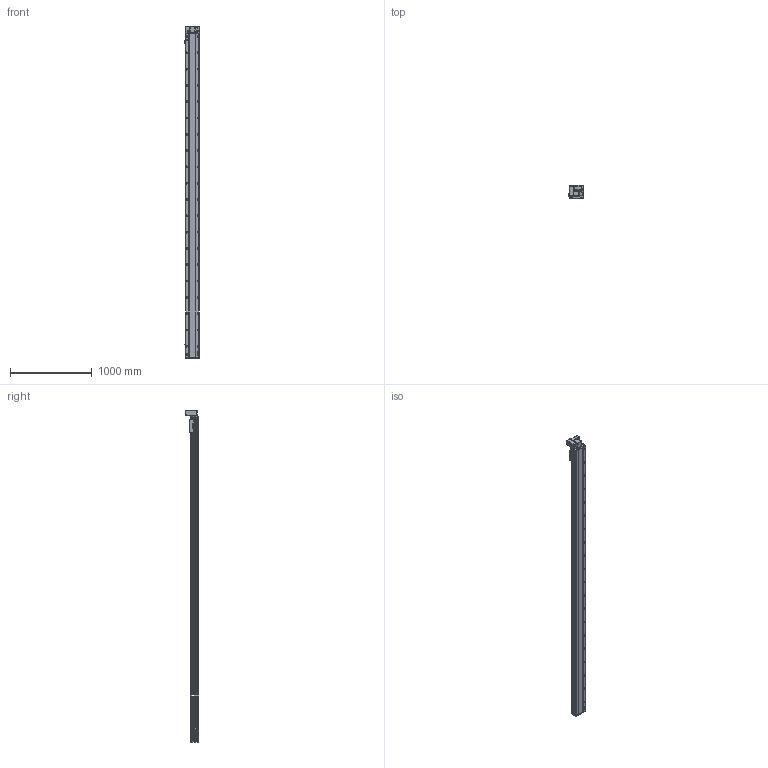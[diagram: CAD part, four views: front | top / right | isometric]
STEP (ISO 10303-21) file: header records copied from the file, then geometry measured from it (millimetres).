
FILE_DESCRIPTION (( 'STEP AP214' ), '1' );
FILE_NAME ('RTB17S-XX-3700-LW-M40-C4.STEP', '2025-12-11T07:25:50', ( '' ), ( '' ), 'SwSTEP 2.0', 'SolidWorks 2018', '' );
FILE_SCHEMA (( 'AUTOMOTIVE_DESIGN' ));
Length unit declared in the file: millimetre
Products named in the file (14): RTB17S-XX-3700-LW-M40-C4; RTB17S-LW-々湍釱蚾饜-400W^RTB17S-XX-XX-LW-M40-C4; RTB17-R-011菁釱^RTB17S-XX-XX-LW-M40-C4; RTB14-L-017P^RTB17S-LW-々湍釱蚾饜-400W_RTB17S-XX-XX-LW-M40-C4; RTB17S-L-014-T20--々湍釱^RTB17S-LW-々湍釱蚾饜-400W_RTB17S-XX-XX-LW-M40-C4; RTB14-L-018P^RTB17S-LW-々湍釱蚾饜-400W_RTB17S-XX-XX-LW-M40-C4; RTB17S-L-007奻裔^RTB17S-XX-XX-LW-M40-C4; RTB14-L-008-M20--萇儂啣^RTB17S-LW-々湍釱蚾饜-400W_RTB17S-XX-XX-LW-M40-C4; RTB17S-L-001耜醱啣^RTB17S-XX-XX-LW-M40-C4; RTB14-L-005P--轴承塑胶压盖^RTB17S-LW-皮带座装配-400W_RTB17S-XX-XX-LW-M40-C4; RTH13-BL-012覜茼え俋离^RTB17S-XX-XX-LW-M40-C4; 400W侜督萇儂^RTB17S-XX-XX-LW-M40-C4; OMRON EE-SX672 传感器^RTB17S-XX-XX-LW-M40-C4; RTB17S-L-004佪裝蹟譫蟀諉釱^RTB17S-XX-XX-LW-M40-C4
Assembly tree (16 placements, depth 3):
  RTB17S-XX-3700-LW-M40-C4
    RTB17-R-011菁釱^RTB17S-XX-XX-LW-M40-C4
    RTB17S-L-007奻裔^RTB17S-XX-XX-LW-M40-C4
    OMRON EE-SX672 传感器^RTB17S-XX-XX-LW-M40-C4  x3
    RTB17S-L-001耜醱啣^RTB17S-XX-XX-LW-M40-C4
    400W侜督萇儂^RTB17S-XX-XX-LW-M40-C4
    RTB17S-L-004佪裝蹟譫蟀諉釱^RTB17S-XX-XX-LW-M40-C4
    RTH13-BL-012覜茼え俋离^RTB17S-XX-XX-LW-M40-C4
    RTB17S-LW-々湍釱蚾饜-400W^RTB17S-XX-XX-LW-M40-C4
      RTB17S-L-014-T20--々湍釱^RTB17S-LW-々湍釱蚾饜-400W_RTB17S-XX-XX-LW-M40-C4
      RTB14-L-005P--轴承塑胶压盖^RTB17S-LW-皮带座装配-400W_RTB17S-XX-XX-LW-M40-C4
      RTB14-L-008-M20--萇儂啣^RTB17S-LW-々湍釱蚾饜-400W_RTB17S-XX-XX-LW-M40-C4
      RTB14-L-017P^RTB17S-LW-々湍釱蚾饜-400W_RTB17S-XX-XX-LW-M40-C4  x2
      RTB14-L-018P^RTB17S-LW-々湍釱蚾饜-400W_RTB17S-XX-XX-LW-M40-C4
Bounding box: 186 x 160.5 x 4072.5 mm (x, y, z)
Volume: 34389986.7 mm3; surface area: 3900050.9 mm2
Topology: 15 solids, 15 shells, 2429 faces, 6843 edges, 4473 vertices
Faces by surface type: plane 1096, cylinder 885, bspline 301, cone 139, torus 8
Entity records: 73385 total; most frequent: CARTESIAN_POINT 21048, ORIENTED_EDGE 10530, DIRECTION 9656, EDGE_CURVE 5265, VERTEX_POINT 3461, AXIS2_PLACEMENT_3D 3391, LINE 2874, VECTOR 2874
